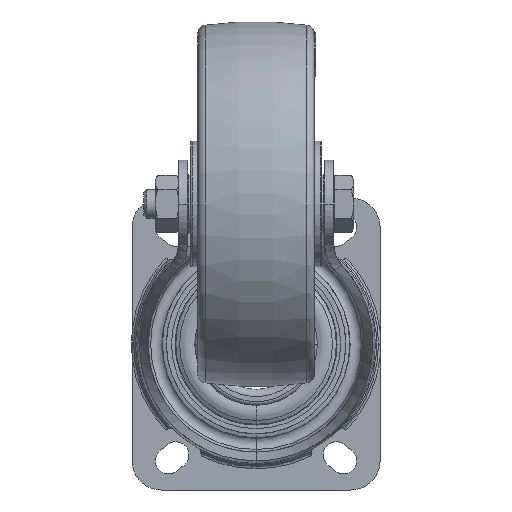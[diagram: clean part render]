
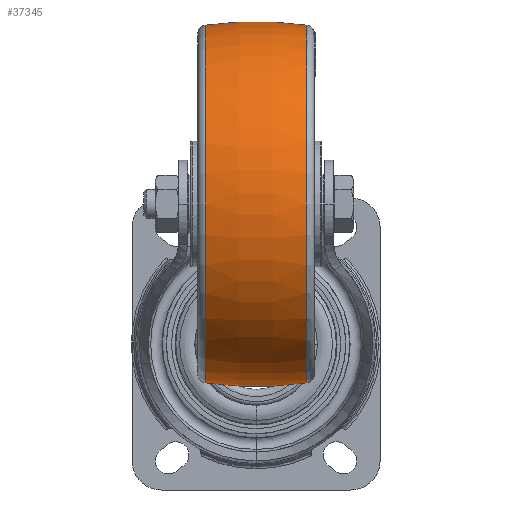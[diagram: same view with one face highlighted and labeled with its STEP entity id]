
A CAD part, front view. The second image highlights one B-rep face of the part: STEP entity #37345.
In plain terms, the highlighted toroidal (fillet/blend) face has major radius 62.5 mm and minor radius 125 mm.
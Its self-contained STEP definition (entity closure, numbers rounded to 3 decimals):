
#6267 = EDGE_LOOP ( 'NONE', ( #43263, #18415, #77505, #35080 ) ) ;
#7596 = EDGE_CURVE ( 'NONE', #80793, #64729, #71468, .T. ) ;
#8416 = DIRECTION ( 'NONE',  ( 0.139, 0.99, 0. ) ) ;
#10697 = AXIS2_PLACEMENT_3D ( 'NONE', #22516, #22219, #65131 ) ;
#12738 = CARTESIAN_POINT ( 'NONE',  ( 17.418, 0., 0. ) ) ;
#14976 = CARTESIAN_POINT ( 'NONE',  ( -17.418, 61.28, 0. ) ) ;
#16664 = CARTESIAN_POINT ( 'NONE',  ( 0., 62.5, 0. ) ) ;
#16978 = CARTESIAN_POINT ( 'NONE',  ( 17.418, 61.28, 0. ) ) ;
#18415 = ORIENTED_EDGE ( 'NONE', *, *, #7596, .T. ) ;
#21759 = CARTESIAN_POINT ( 'NONE',  ( -17.418, -61.28, 0. ) ) ;
#21878 = CARTESIAN_POINT ( 'NONE',  ( 0., -62.5, 0. ) ) ;
#22219 = DIRECTION ( 'NONE',  ( 1., 0., 0. ) ) ;
#22516 = CARTESIAN_POINT ( 'NONE',  ( 0., 0., 0. ) ) ;
#22887 = CARTESIAN_POINT ( 'NONE',  ( -17.418, 0., 0. ) ) ;
#24467 = AXIS2_PLACEMENT_3D ( 'NONE', #21878, #50361, #8416 ) ;
#26102 = TOROIDAL_SURFACE ( 'NONE', #10697, -62.5, 125. ) ;
#34078 = CIRCLE ( 'NONE', #69129, 61.28 ) ;
#35080 = ORIENTED_EDGE ( 'NONE', *, *, #60300, .F. ) ;
#36922 = DIRECTION ( 'NONE',  ( 0., -1., 0. ) ) ;
#37345 = ADVANCED_FACE ( 'NONE', ( #67828 ), #26102, .T. ) ;
#42738 = CARTESIAN_POINT ( 'NONE',  ( 17.418, -61.28, 0. ) ) ;
#43263 = ORIENTED_EDGE ( 'NONE', *, *, #63568, .T. ) ;
#43941 = VERTEX_POINT ( 'NONE', #21759 ) ;
#50361 = DIRECTION ( 'NONE',  ( 0., 0., 1. ) ) ;
#52205 = DIRECTION ( 'NONE',  ( 0.139, -0.99, 0. ) ) ;
#58600 = CIRCLE ( 'NONE', #86586, 61.28 ) ;
#60300 = EDGE_CURVE ( 'NONE', #83948, #43941, #70160, .T. ) ;
#62673 = DIRECTION ( 'NONE',  ( 0., -1., 0. ) ) ;
#63568 = EDGE_CURVE ( 'NONE', #83948, #80793, #58600, .T. ) ;
#64729 = VERTEX_POINT ( 'NONE', #14976 ) ;
#65131 = DIRECTION ( 'NONE',  ( 0., 1., 0. ) ) ;
#65730 = DIRECTION ( 'NONE',  ( 0., 0., -1. ) ) ;
#66211 = EDGE_CURVE ( 'NONE', #43941, #64729, #34078, .T. ) ;
#67828 = FACE_OUTER_BOUND ( 'NONE', #6267, .T. ) ;
#69129 = AXIS2_PLACEMENT_3D ( 'NONE', #22887, #86380, #36922 ) ;
#69754 = DIRECTION ( 'NONE',  ( -1., 0., 0. ) ) ;
#70160 = CIRCLE ( 'NONE', #81610, 125. ) ;
#71468 = CIRCLE ( 'NONE', #24467, 125. ) ;
#77505 = ORIENTED_EDGE ( 'NONE', *, *, #66211, .F. ) ;
#80793 = VERTEX_POINT ( 'NONE', #16978 ) ;
#81610 = AXIS2_PLACEMENT_3D ( 'NONE', #16664, #65730, #52205 ) ;
#83948 = VERTEX_POINT ( 'NONE', #42738 ) ;
#86380 = DIRECTION ( 'NONE',  ( -1., 0., 0. ) ) ;
#86586 = AXIS2_PLACEMENT_3D ( 'NONE', #12738, #69754, #62673 ) ;
